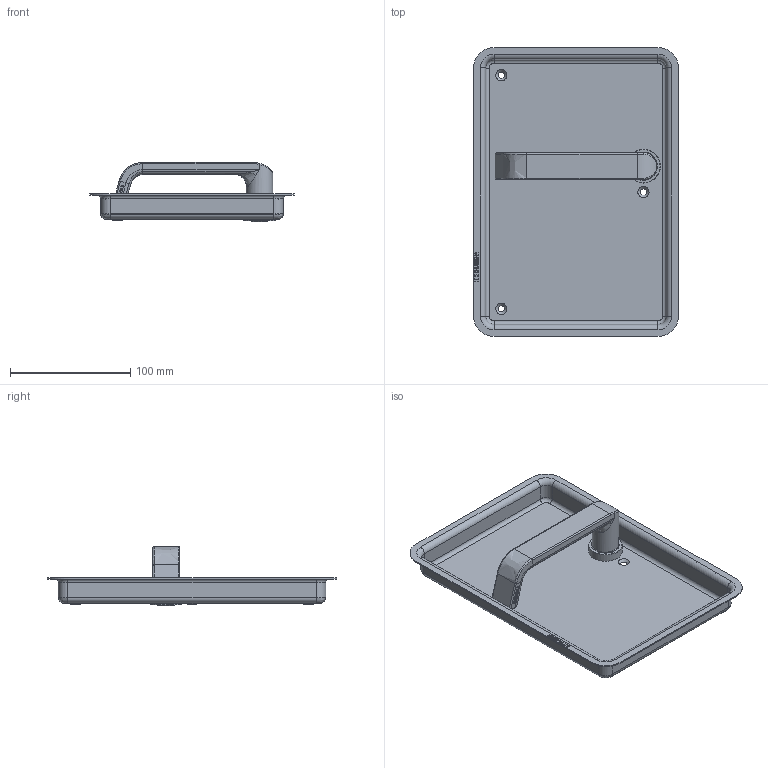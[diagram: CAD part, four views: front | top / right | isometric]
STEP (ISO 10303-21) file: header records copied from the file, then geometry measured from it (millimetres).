
FILE_DESCRIPTION(/* description */ (''),/* implementation_level */ '2;1');
FILE_NAME(/* name */ 'C:\ADSK_DMS_WS\Designs\Vorschläge\Loc Schalen\Muschel Serie 3\S3.20.D2Links\Heusser-Muschel S3.20.D2.0L.stp',/* time_stamp */ '2020-11-21T11:20:02+01:00',/* author */ ('gm'),/* organization */ (''),/* preprocessor_version */ 'ST-DEVELOPER v16.5',/* originating_system */ 'Autodesk Inventor 2017',/* authorisation */ '');
FILE_SCHEMA (('AUTOMOTIVE_DESIGN { 1 0 10303 214 3 1 1 }'));
Length unit declared in the file: millimetre
Products named in the file (1): S3.20.D1.L
Bounding box: 170 x 240 x 49 mm (x, y, z)
Volume: 95311.1 mm3; surface area: 120762.4 mm2
Topology: 1 solids, 2 shells, 609 faces, 1594 edges, 1031 vertices
Faces by surface type: plane 294, bspline 212, cylinder 70, torus 17, cone 16
Full cylindrical faces by diameter (mm): 1.7 x2, 6 x1, 16 x3, 18 x1, 19 x1, 19.1 x1, 22 x1, 23 x1, 23.2 x1, 24 x1, 25 x1, 26 x1, 28 x1
Entity records: 20822 total; most frequent: CARTESIAN_POINT 6395, ORIENTED_EDGE 3106, DIRECTION 2311, EDGE_CURVE 1553, VERTEX_POINT 1026, LINE 955, VECTOR 955, EDGE_LOOP 701
